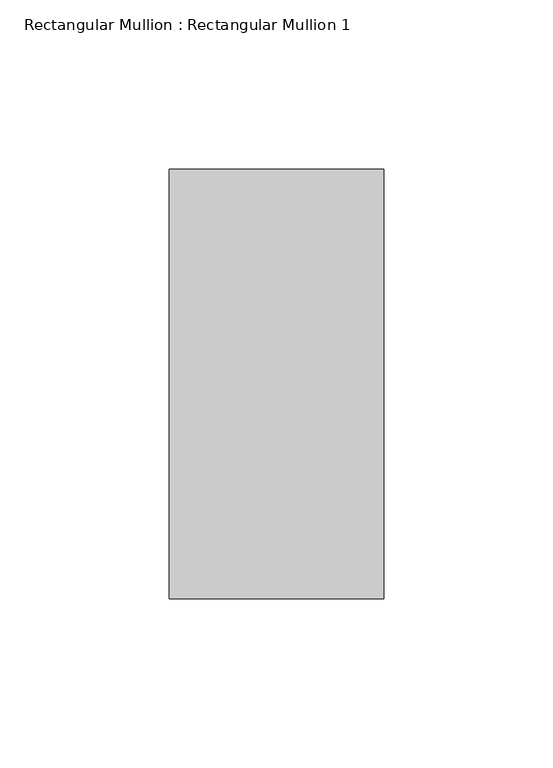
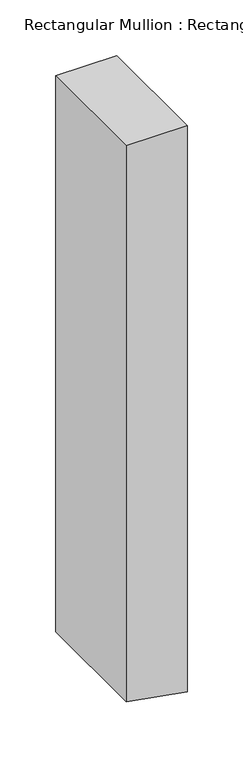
"""IFC4 building model written with IfcOpenShell, lengths in millimetres: member geometry, Rectangular Mullion : Rectangular Mullion 1."""

from ifc_helpers import new_model, si_unit, frame, origin, place, context, project, spatial, polyline, outline, extrude, source, transform, mapped, element, save


def rectangular_mullion_rectangular_mullion_1_6a1902be(model_context):
    return source(origin(), model_context, "Body", "SweptSolid", [
        extrude(outline(polyline([(0.0, 0.0), (0.0, -63.5), (-611.6760747, -63.5), (-622.8728379, 0.0), (0.0, 0.0)])), frame((0.0, -63.5, 0.0), z_axis=(0.0, 1.0, 0.0), x_axis=(0.0, 0.0, 1.0)), (0.0, 0.0, 1.0), 127.0),
    ])


if __name__ == "__main__":
    model = new_model("IFC4")
    model_context = context("Model", 3, world=origin())
    ifc_project = project(units=[si_unit("LENGTHUNIT", "METRE", prefix="MILLI")], contexts=[model_context])
    site = spatial("IfcSite", under=ifc_project)
    building = spatial("IfcBuilding", under=site)
    placement = place(None, origin())
    rectangular_mullion_rectangular_mullion_1_shape = rectangular_mullion_rectangular_mullion_1_6a1902be(model_context)
    element("IfcMember", 1, ObjectType="Rectangular Mullion : Rectangular Mullion 1", at=placement, inside=building, context=model_context, shape_type="MappedRepresentation", body=[
        mapped(rectangular_mullion_rectangular_mullion_1_shape, transform((0.0, 0.0, 0.0), x_axis=(1.0, 0.0, 0.0), y_axis=(0.0, 1.0, 0.0), z_axis=(0.0, 0.0, 1.0))),
    ])
    save(model, "model.ifc")
